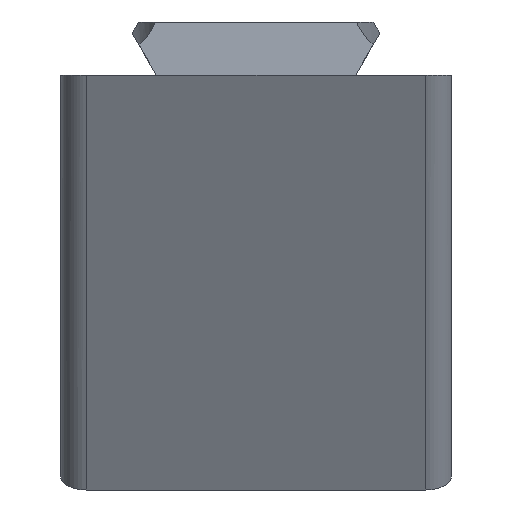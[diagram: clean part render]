
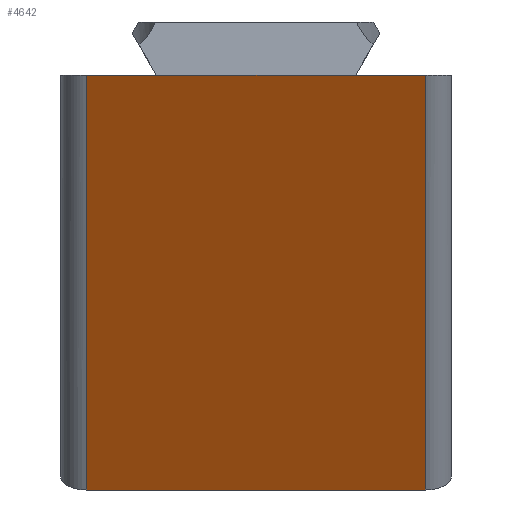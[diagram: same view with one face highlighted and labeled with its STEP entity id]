
A CAD part, left-side view. The second image highlights one B-rep face of the part: STEP entity #4642.
In plain terms, the highlighted planar face has unit normal (-0.866, 0, -0.5).
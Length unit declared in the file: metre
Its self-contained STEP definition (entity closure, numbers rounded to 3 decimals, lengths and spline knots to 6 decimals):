
#736=ORIENTED_EDGE('',*,*,#1922,.T.);
#737=ORIENTED_EDGE('',*,*,#2127,.T.);
#738=ORIENTED_EDGE('',*,*,#1875,.F.);
#739=ORIENTED_EDGE('',*,*,#2128,.T.);
#740=ORIENTED_EDGE('',*,*,#1940,.T.);
#741=ORIENTED_EDGE('',*,*,#2122,.T.);
#1875=EDGE_CURVE('',#2587,#2588,#3061,.T.);
#1922=EDGE_CURVE('',#2635,#2634,#3085,.T.);
#1940=EDGE_CURVE('',#2653,#2652,#3096,.T.);
#2122=EDGE_CURVE('',#2652,#2635,#3176,.T.);
#2127=EDGE_CURVE('',#2634,#2588,#3177,.T.);
#2128=EDGE_CURVE('',#2587,#2653,#3178,.F.);
#2587=VERTEX_POINT('',#6135);
#2588=VERTEX_POINT('',#6137);
#2634=VERTEX_POINT('',#6233);
#2635=VERTEX_POINT('',#6235);
#2652=VERTEX_POINT('',#6269);
#2653=VERTEX_POINT('',#6271);
#3061=LINE('',#6136,#3482);
#3085=LINE('',#6234,#3506);
#3096=LINE('',#6270,#3517);
#3176=LINE('',#6781,#3597);
#3177=LINE('',#6792,#3598);
#3178=LINE('',#6793,#3599);
#3482=VECTOR('',#5179,1.);
#3506=VECTOR('',#5257,1.);
#3517=VECTOR('',#5282,1.);
#3597=VECTOR('',#5442,1.);
#3598=VECTOR('',#5459,1.);
#3599=VECTOR('',#5460,1.);
#3942=EDGE_LOOP('',(#736,#737,#738,#739,#740,#741));
#4241=FACE_BOUND('',#3942,.T.);
#4514=PLANE('',#4982);
#4642=ADVANCED_FACE('',(#4241),#4514,.F.);
#4982=AXIS2_PLACEMENT_3D('',#6791,#5457,#5458);
#5179=DIRECTION('',(0.,1.,0.));
#5257=DIRECTION('',(0.,1.,0.));
#5282=DIRECTION('',(0.,1.,0.));
#5442=DIRECTION('',(0.,1.,0.));
#5457=DIRECTION('',(0.866,0.,0.5));
#5458=DIRECTION('',(0.5,0.,-0.866));
#5459=DIRECTION('',(0.5,0.,-0.866));
#5460=DIRECTION('',(0.5,0.,-0.866));
#6135=CARTESIAN_POINT('',(0.018377,-0.013,-0.03183));
#6136=CARTESIAN_POINT('',(0.018377,-0.015,-0.03183));
#6137=CARTESIAN_POINT('',(0.018377,0.013,-0.03183));
#6233=CARTESIAN_POINT('',(0.,0.013,0.));
#6234=CARTESIAN_POINT('',(0.,-0.015,0.));
#6235=CARTESIAN_POINT('',(0.,0.007695,0.));
#6269=CARTESIAN_POINT('',(0.,-0.007695,0.));
#6270=CARTESIAN_POINT('',(0.,-0.015,0.));
#6271=CARTESIAN_POINT('',(0.,-0.013,0.));
#6781=CARTESIAN_POINT('',(0.,0.,0.));
#6791=CARTESIAN_POINT('',(0.009189,-0.015,-0.015915));
#6792=CARTESIAN_POINT('',(0.009189,0.013,-0.015915));
#6793=CARTESIAN_POINT('',(0.,-0.013,0.));
